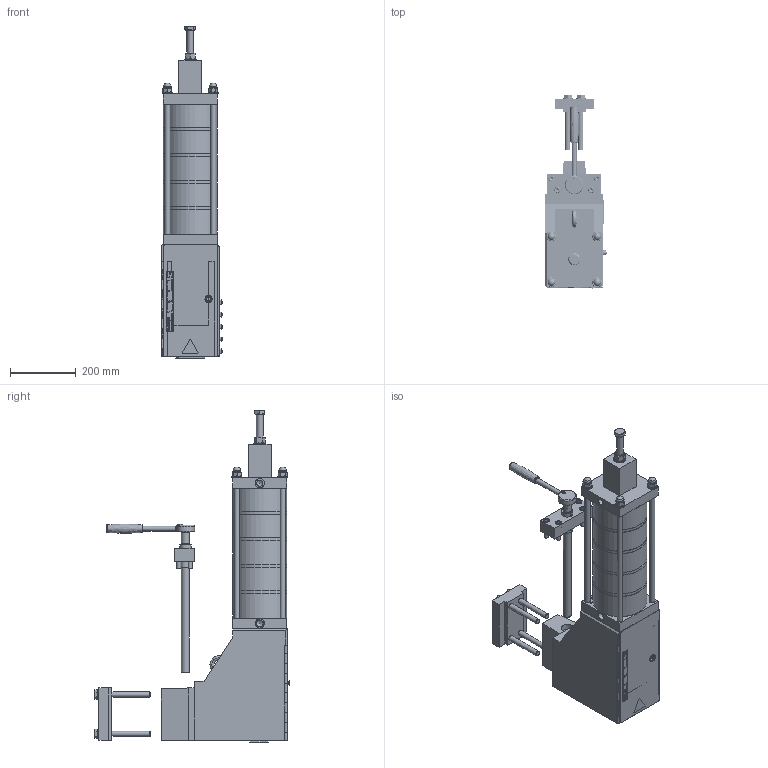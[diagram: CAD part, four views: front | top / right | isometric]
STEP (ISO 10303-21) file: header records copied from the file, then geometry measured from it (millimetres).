
FILE_DESCRIPTION(/* description */ (''),/* implementation_level */ '2;1');
FILE_NAME(/* name */ 'P:\Transfer Test\LP\Pressen_LP\LP Presseinheiten\PEH LP 56kN Hub40 G0600.stp',/* time_stamp */ '2020-11-12T13:06:03+01:00',/* author */ ('gsp'),/* organization */ (''),/* preprocessor_version */ 'ST-DEVELOPER v18',/* originating_system */ 'Autodesk Inventor 2020',/* authorisation */ '');
FILE_SCHEMA (('AUTOMOTIVE_DESIGN { 1 0 10303 214 3 1 1 }'));
Products named in the file (6): PEH LP 56kN Hub40 G0600; Spannplatte G0600; Führungseinheit_LP G0600_ohne_Schlitten_ANR18108; Schlittendummy_LP_G0600_ANR18109; LP_Zylinder_56kN_Hub40_ANR18151; Stellspindel G0600
Assembly tree (5 placements, depth 2):
  PEH LP 56kN Hub40 G0600
    Spannplatte G0600
    Führungseinheit_LP G0600_ohne_Schlitten_ANR18108
    Schlittendummy_LP_G0600_ANR18109
    LP_Zylinder_56kN_Hub40_ANR18151
    Stellspindel G0600
Bounding box: 188.72 x 594.57 x 1013.5 mm (x, y, z)
Volume: 25009047.1 mm3; surface area: 1454512.2 mm2
Topology: 7 solids, 43 shells, 6725 faces, 18085 edges, 12011 vertices
Faces by surface type: plane 3451, bspline 2563, cylinder 434, cone 229, torus 40, sphere 8
Full cylindrical faces by diameter (mm): 2 x6, 2.1 x4, 3 x12, 3.242 x4, 4 x4, 4.134 x2, 4.917 x1, 5 x2, 5.1 x4, 5.2 x2, 5.5 x4, 6.2 x3, 6.5 x1, 6.647 x6, 6.8 x16, 6.917 x1, 8 x13, 8.4 x10, 9 x2, 10 x36, 10.106 x1, 10.45 x52, 10.5 x4, 11.5 x4, 12 x4, 13 x3, 13.5 x4, 13.835 x10, 15 x4, 16 x30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
Entity records: 241805 total; most frequent: CARTESIAN_POINT 83890, ORIENTED_EDGE 36040, DIRECTION 21961, EDGE_CURVE 18020, VERTEX_POINT 12013, LINE 10915, VECTOR 10915, EDGE_LOOP 7490
